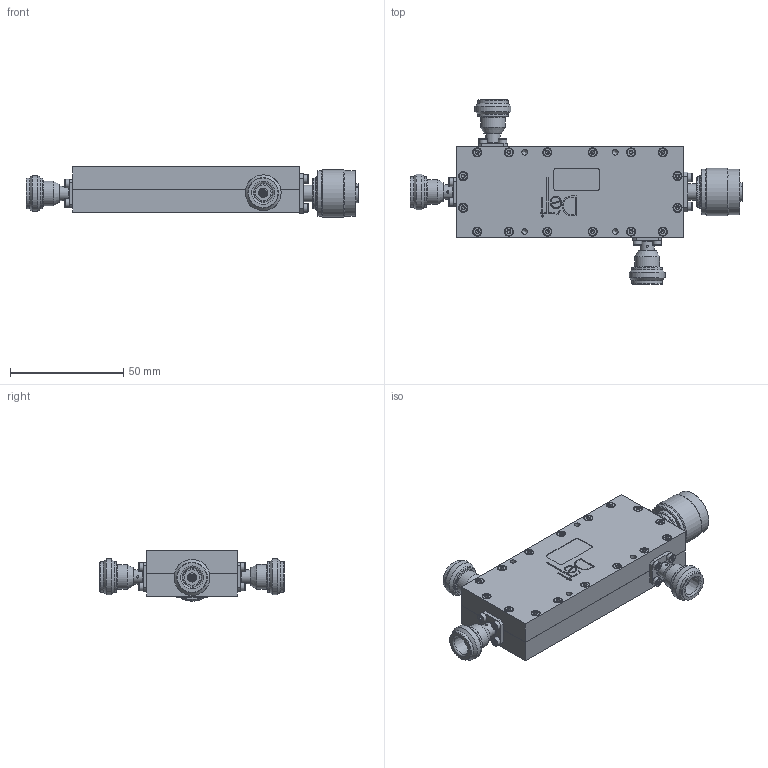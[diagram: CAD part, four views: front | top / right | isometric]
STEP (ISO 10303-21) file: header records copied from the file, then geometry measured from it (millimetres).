
FILE_DESCRIPTION(/* description */ ('Unknown'),/* implementation_level */ '2;1');
FILE_NAME(/* name */ 'DETI_MICROWAVE_HIGH_POWER_DUAL_DIRECTIONAL_COUPLER_011097_STEP',/* time_stamp */ '2021-06-11T11:40:42+02:00',/* author */ ('ALG'),/* organization */ ('DETI'),/* preprocessor_version */ 'ST-DEVELOPER v16.7',/* originating_system */ 'Solid Edge',/* authorisation */ 'Unknown');
FILE_SCHEMA (('AUTOMOTIVE_DESIGN {1 0 10303 214 3 1 1}'));
Length unit declared in the file: millimetre
Products named in the file (1): CD-2-1000-4000-20-20-160-NM-NF-NF2
Bounding box: 146.7 x 81.4 x 22.25 mm (x, y, z)
Volume: 76052.2 mm3; surface area: 38221.7 mm2
Topology: 38 solids, 46 shells, 1177 faces, 2715 edges, 1749 vertices
Faces by surface type: plane 531, cone 272, cylinder 252, torus 108, bspline 14
Full cylindrical faces by diameter (mm): 0.917 x1, 1 x6, 1.221 x2, 1.275 x3, 1.567 x36, 1.65 x1, 2 x32, 2.1 x3, 2.2 x16, 2.459 x4, 2.5 x1, 2.6 x4, 2.9 x12, 3.03 x3, 3.05 x1, 3.8 x32, 4 x16, 4.06 x3, 6.3 x3, 6.4 x1, 7 x3, 7.4 x1, 10.9 x3, 11.1 x1, 11.8 x1, 13.5 x6, 15 x1, 15.84 x3, 16.2 x1, 17.701 x2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
Entity records: 33094 total; most frequent: CARTESIAN_POINT 7643, DIRECTION 4790, ORIENTED_EDGE 3976, EDGE_CURVE 2013, AXIS2_PLACEMENT_3D 2013, FACE_BOUND 1988, EDGE_LOOP 1919, VERTEX_POINT 1642
